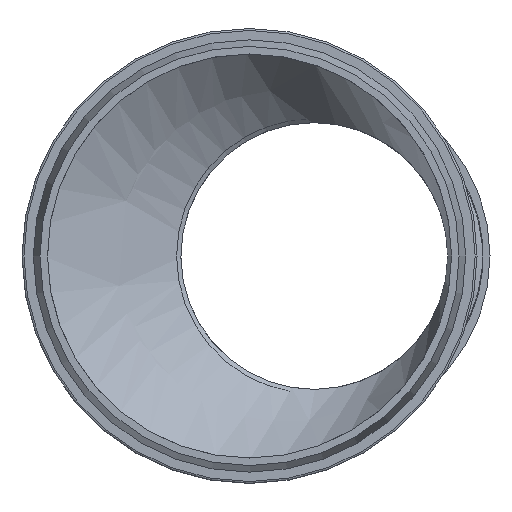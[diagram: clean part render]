
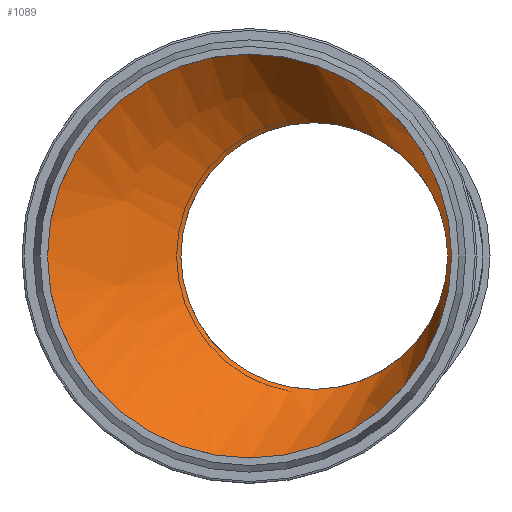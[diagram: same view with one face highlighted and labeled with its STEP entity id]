
A CAD part, front view. The second image highlights one B-rep face of the part: STEP entity #1089.
In plain terms, the highlighted free-form (B-spline) face has degree [1, 2] with [2, 9] control points.
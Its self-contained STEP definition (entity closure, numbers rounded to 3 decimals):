
#202=FACE_OUTER_BOUND($,#262,.T.);
#262=EDGE_LOOP($,(#729,#730,#731,#732,#733,#734));
#364=B_SPLINE_CURVE_WITH_KNOTS($,1,(#1611,#1612),.UNSPECIFIED.,.F.,.F.,
(2,2),(0.,0.873),.UNSPECIFIED.);
#414=CIRCLE($,#1162,34.);
#415=CIRCLE($,#1163,34.);
#416=CIRCLE($,#1164,51.5);
#417=CIRCLE($,#1165,51.5);
#473=VERTEX_POINT($,#1606);
#474=VERTEX_POINT($,#1607);
#475=VERTEX_POINT($,#1610);
#476=VERTEX_POINT($,#1613);
#584=EDGE_CURVE($,#473,#474,#414,.T.);
#585=EDGE_CURVE($,#474,#473,#415,.T.);
#586=EDGE_CURVE($,#474,#475,#364,.T.);
#587=EDGE_CURVE($,#475,#476,#416,.T.);
#588=EDGE_CURVE($,#476,#475,#417,.T.);
#729=ORIENTED_EDGE($,*,*,#584,.F.);
#730=ORIENTED_EDGE($,*,*,#585,.F.);
#731=ORIENTED_EDGE($,*,*,#586,.T.);
#732=ORIENTED_EDGE($,*,*,#587,.T.);
#733=ORIENTED_EDGE($,*,*,#588,.T.);
#734=ORIENTED_EDGE($,*,*,#586,.F.);
#1019=(
BOUNDED_SURFACE()
B_SPLINE_SURFACE(1,2,((#1588,#1589,#1590,#1591,#1592,#1593,#1594,#1595,
#1596),(#1597,#1598,#1599,#1600,#1601,#1602,#1603,#1604,#1605)),
 .UNSPECIFIED.,.F.,.T.,.F.)
B_SPLINE_SURFACE_WITH_KNOTS((2,2),(3,2,2,2,3),(-0.419,2.138),
(-3.142,-1.571,0.,1.571,3.142),
 .UNSPECIFIED.)
GEOMETRIC_REPRESENTATION_ITEM()
RATIONAL_B_SPLINE_SURFACE(((1.,0.707,1.,0.707,1.,
0.707,1.,0.707,1.),(1.,0.707,1.,0.707,
1.,0.707,1.,0.707,1.)))
REPRESENTATION_ITEM($)
SURFACE()
);
#1089=ADVANCED_FACE($,(#202),#1019,.T.);
#1162=AXIS2_PLACEMENT_3D($,#1608,#1293,#1294);
#1163=AXIS2_PLACEMENT_3D($,#1609,#1295,#1296);
#1164=AXIS2_PLACEMENT_3D($,#1614,#1297,#1298);
#1165=AXIS2_PLACEMENT_3D($,#1615,#1299,#1300);
#1293=DIRECTION('center_axis',(0.,-1.,0.));
#1294=DIRECTION('ref_axis',(1.,0.,0.));
#1295=DIRECTION('center_axis',(0.,-1.,0.));
#1296=DIRECTION('ref_axis',(1.,0.,0.));
#1297=DIRECTION('center_axis',(0.,-1.,0.));
#1298=DIRECTION('ref_axis',(1.,0.,0.));
#1299=DIRECTION('center_axis',(0.,-1.,0.));
#1300=DIRECTION('ref_axis',(1.,0.,0.));
#1588=CARTESIAN_POINT('Ctrl Pts',(32.799,104.359,24.198));
#1589=CARTESIAN_POINT('Ctrl Pts',(15.098,113.918,24.198));
#1590=CARTESIAN_POINT('Ctrl Pts',(15.098,113.918,0.));
#1591=CARTESIAN_POINT('Ctrl Pts',(15.098,113.918,-24.198));
#1592=CARTESIAN_POINT('Ctrl Pts',(32.799,104.359,-24.198));
#1593=CARTESIAN_POINT('Ctrl Pts',(50.5,94.8,-24.198));
#1594=CARTESIAN_POINT('Ctrl Pts',(50.5,94.8,0.));
#1595=CARTESIAN_POINT('Ctrl Pts',(50.5,94.8,24.198));
#1596=CARTESIAN_POINT('Ctrl Pts',(32.799,104.359,24.198));
#1597=CARTESIAN_POINT('Ctrl Pts',(1.271,45.975,72.611));
#1598=CARTESIAN_POINT('Ctrl Pts',(-51.845,74.658,72.611));
#1599=CARTESIAN_POINT('Ctrl Pts',(-51.845,74.658,0.));
#1600=CARTESIAN_POINT('Ctrl Pts',(-51.845,74.658,-72.611));
#1601=CARTESIAN_POINT('Ctrl Pts',(1.271,45.975,-72.611));
#1602=CARTESIAN_POINT('Ctrl Pts',(54.387,17.292,-72.611));
#1603=CARTESIAN_POINT('Ctrl Pts',(54.387,17.292,0.));
#1604=CARTESIAN_POINT('Ctrl Pts',(54.387,17.292,72.611));
#1605=CARTESIAN_POINT('Ctrl Pts',(1.271,45.975,72.611));
#1606=CARTESIAN_POINT('',(50.5,94.8,0.));
#1607=CARTESIAN_POINT('',(27.637,94.8,32.124));
#1608=CARTESIAN_POINT('Origin',(16.5,94.8,0.));
#1609=CARTESIAN_POINT('Origin',(16.5,94.8,0.));
#1610=CARTESIAN_POINT('',(16.869,74.86,48.659));
#1611=CARTESIAN_POINT('Ctrl Pts',(27.637,94.8,32.124));
#1612=CARTESIAN_POINT('Ctrl Pts',(16.869,74.86,48.659));
#1613=CARTESIAN_POINT('',(51.5,74.86,0.));
#1614=CARTESIAN_POINT('Origin',(0.,74.86,0.));
#1615=CARTESIAN_POINT('Origin',(0.,74.86,0.));
